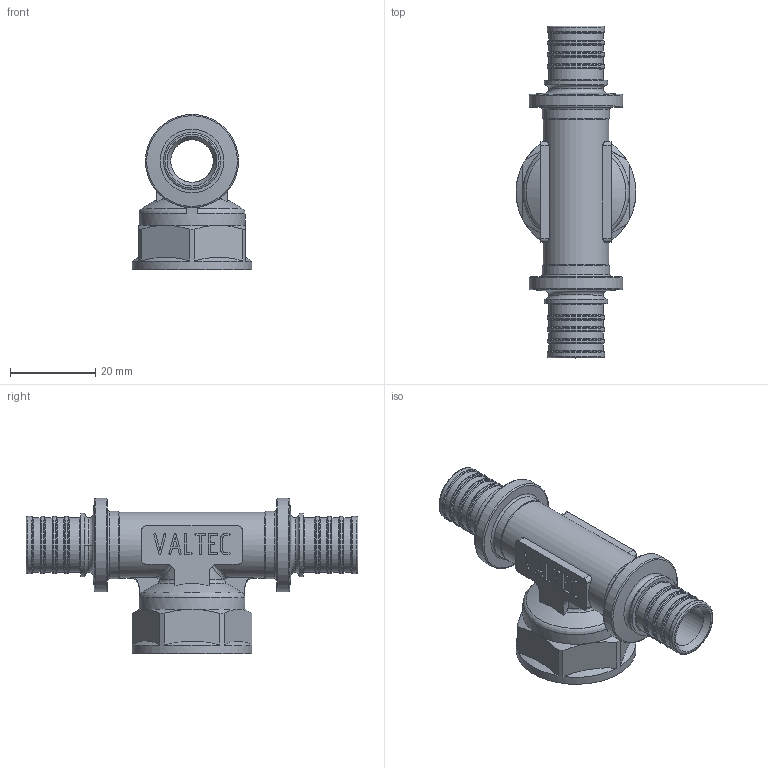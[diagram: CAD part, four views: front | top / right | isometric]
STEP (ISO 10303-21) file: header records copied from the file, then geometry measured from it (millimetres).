
FILE_DESCRIPTION(('STEP AP203'), '1');
FILE_NAME('ÂÐ.752249.016 - VTm.432.G.160416 Ôèò. òðîé. ñ ïåð', '', ('UNSPECIFIED'), ('UNSPECIFIED'), 'C3D Converter', 'C3D Toolkit', '');
FILE_SCHEMA(('CONFIG_CONTROL_DESIGN'));
Length unit declared in the file: millimetre
Products named in the file (1): ВР.752249.016
Bounding box: 28.2 x 78 x 36.45 mm (x, y, z)
Volume: 13026.2 mm3; surface area: 10432.7 mm2
Topology: 1 solids, 1 shells, 398 faces, 1051 edges, 675 vertices
Faces by surface type: extrusion 142, plane 130, torus 50, cylinder 44, cone 22, bspline 10
Full cylindrical faces by diameter (mm): 10 x2, 12.8 x8, 13.5 x8, 15 x2, 15.5 x1, 15.8 x2, 18.632 x1, 21.9 x2, 25 x1, 28.2 x1
Entity records: 17781 total; most frequent: CARTESIAN_POINT 5688, ORIENTED_EDGE 1946, DIRECTION 1378, EDGE_CURVE 973, VERTEX_POINT 675, VECTOR 592, B_SPLINE_CURVE_WITH_KNOTS 516, EDGE_LOOP 500
